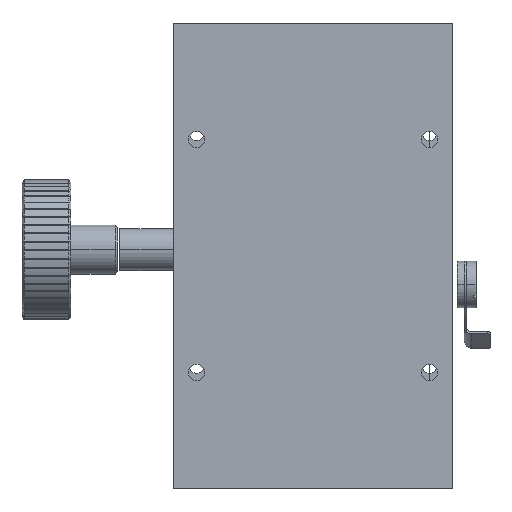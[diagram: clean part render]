
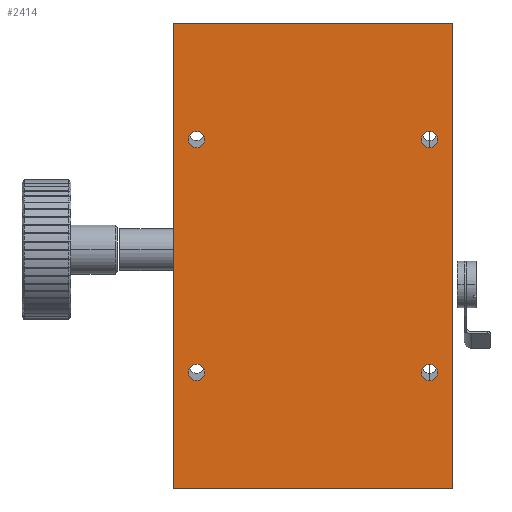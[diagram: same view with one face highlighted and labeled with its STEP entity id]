
A CAD part, front view. The second image highlights one B-rep face of the part: STEP entity #2414.
In plain terms, the highlighted planar face has unit normal (0, 1, 0).
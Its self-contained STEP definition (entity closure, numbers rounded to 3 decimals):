
#87 = AXIS2_PLACEMENT_3D ( 'NONE', #3652, #7102, #7893 ) ;
#147 = DIRECTION ( 'NONE',  ( 0., -1., 0. ) ) ;
#329 = DIRECTION ( 'NONE',  ( 0., 0., 1. ) ) ;
#338 = CARTESIAN_POINT ( 'NONE',  ( 14.928, -5.71, 123.25 ) ) ;
#376 = ORIENTED_EDGE ( 'NONE', *, *, #4442, .T. ) ;
#434 = CARTESIAN_POINT ( 'NONE',  ( 14.928, -5.71, 76.75 ) ) ;
#577 = CIRCLE ( 'NONE', #7955, 1.75 ) ;
#578 = DIRECTION ( 'NONE',  ( 0., 0., -1. ) ) ;
#720 = FACE_BOUND ( 'NONE', #7891, .T. ) ;
#744 = VERTEX_POINT ( 'NONE', #9751 ) ;
#756 = DIRECTION ( 'NONE',  ( 0., 0., 1. ) ) ;
#931 = EDGE_CURVE ( 'NONE', #9513, #1475, #9140, .T. ) ;
#996 = ORIENTED_EDGE ( 'NONE', *, *, #10965, .T. ) ;
#1200 = ORIENTED_EDGE ( 'NONE', *, *, #10166, .T. ) ;
#1261 = EDGE_LOOP ( 'NONE', ( #996, #8592 ) ) ;
#1394 = CIRCLE ( 'NONE', #2859, 1.75 ) ;
#1475 = VERTEX_POINT ( 'NONE', #6692 ) ;
#1521 = ORIENTED_EDGE ( 'NONE', *, *, #7282, .T. ) ;
#1678 = DIRECTION ( 'NONE',  ( 0., -1., 0. ) ) ;
#1748 = CARTESIAN_POINT ( 'NONE',  ( -35.072, -5.71, 125. ) ) ;
#1866 = DIRECTION ( 'NONE',  ( -1., 0., 0. ) ) ;
#1873 = LINE ( 'NONE', #10961, #6719 ) ;
#2262 = VERTEX_POINT ( 'NONE', #5573 ) ;
#2329 = CARTESIAN_POINT ( 'NONE',  ( -35.072, -5.71, 125. ) ) ;
#2414 = ADVANCED_FACE ( 'NONE', ( #4911, #720, #3174, #6636, #3690 ), #5364, .T. ) ;
#2464 = LINE ( 'NONE', #9459, #7163 ) ;
#2534 = CARTESIAN_POINT ( 'NONE',  ( 14.928, -5.71, 125. ) ) ;
#2787 = DIRECTION ( 'NONE',  ( 0., 1., 0. ) ) ;
#2859 = AXIS2_PLACEMENT_3D ( 'NONE', #2329, #8282, #9206 ) ;
#2883 = CARTESIAN_POINT ( 'NONE',  ( 19.928, -5.71, 50. ) ) ;
#2894 = VECTOR ( 'NONE', #9128, 1000. ) ;
#3077 = EDGE_LOOP ( 'NONE', ( #9155, #6945 ) ) ;
#3174 = FACE_BOUND ( 'NONE', #5495, .T. ) ;
#3358 = DIRECTION ( 'NONE',  ( 1., 0., 0. ) ) ;
#3559 = EDGE_CURVE ( 'NONE', #5673, #744, #5156, .T. ) ;
#3652 = CARTESIAN_POINT ( 'NONE',  ( -35.072, -5.71, 75. ) ) ;
#3690 = FACE_OUTER_BOUND ( 'NONE', #3998, .T. ) ;
#3737 = CARTESIAN_POINT ( 'NONE',  ( -35.072, -5.71, 75. ) ) ;
#3777 = VERTEX_POINT ( 'NONE', #2883 ) ;
#3853 = DIRECTION ( 'NONE',  ( 0., -1., 0. ) ) ;
#3998 = EDGE_LOOP ( 'NONE', ( #7917, #376, #1200, #1521 ) ) ;
#4040 = LINE ( 'NONE', #5828, #8485 ) ;
#4041 = CARTESIAN_POINT ( 'NONE',  ( 14.928, -5.71, 126.75 ) ) ;
#4098 = EDGE_CURVE ( 'NONE', #5744, #7628, #9755, .T. ) ;
#4442 = EDGE_CURVE ( 'NONE', #744, #5898, #2464, .T. ) ;
#4911 = FACE_BOUND ( 'NONE', #3077, .T. ) ;
#5086 = AXIS2_PLACEMENT_3D ( 'NONE', #8619, #10350, #10459 ) ;
#5156 = LINE ( 'NONE', #10851, #2894 ) ;
#5284 = AXIS2_PLACEMENT_3D ( 'NONE', #1748, #1678, #7691 ) ;
#5324 = CARTESIAN_POINT ( 'NONE',  ( -35.072, -5.71, 123.25 ) ) ;
#5364 = PLANE ( 'NONE',  #7299 ) ;
#5495 = EDGE_LOOP ( 'NONE', ( #6207, #8288 ) ) ;
#5573 = CARTESIAN_POINT ( 'NONE',  ( -35.072, -5.71, 126.75 ) ) ;
#5673 = VERTEX_POINT ( 'NONE', #8602 ) ;
#5744 = VERTEX_POINT ( 'NONE', #6005 ) ;
#5828 = CARTESIAN_POINT ( 'NONE',  ( -40.072, -5.71, 50. ) ) ;
#5898 = VERTEX_POINT ( 'NONE', #8237 ) ;
#5972 = CARTESIAN_POINT ( 'NONE',  ( 14.928, -5.71, 75. ) ) ;
#6005 = CARTESIAN_POINT ( 'NONE',  ( -35.072, -5.71, 73.25 ) ) ;
#6108 = EDGE_CURVE ( 'NONE', #10634, #2262, #7547, .T. ) ;
#6207 = ORIENTED_EDGE ( 'NONE', *, *, #8069, .T. ) ;
#6566 = DIRECTION ( 'NONE',  ( 0., -1., 0. ) ) ;
#6636 = FACE_BOUND ( 'NONE', #1261, .T. ) ;
#6692 = CARTESIAN_POINT ( 'NONE',  ( 14.928, -5.71, 73.25 ) ) ;
#6719 = VECTOR ( 'NONE', #578, 1000. ) ;
#6945 = ORIENTED_EDGE ( 'NONE', *, *, #9162, .T. ) ;
#7009 = CIRCLE ( 'NONE', #10026, 1.75 ) ;
#7102 = DIRECTION ( 'NONE',  ( 0., -1., 0. ) ) ;
#7163 = VECTOR ( 'NONE', #3358, 1000. ) ;
#7282 = EDGE_CURVE ( 'NONE', #3777, #5673, #4040, .T. ) ;
#7299 = AXIS2_PLACEMENT_3D ( 'NONE', #8943, #2787, #1866 ) ;
#7381 = ORIENTED_EDGE ( 'NONE', *, *, #7890, .T. ) ;
#7547 = CIRCLE ( 'NONE', #5284, 1.75 ) ;
#7628 = VERTEX_POINT ( 'NONE', #8535 ) ;
#7646 = EDGE_CURVE ( 'NONE', #10091, #9145, #9835, .T. ) ;
#7691 = DIRECTION ( 'NONE',  ( 0., 0., 1. ) ) ;
#7865 = DIRECTION ( 'NONE',  ( 0., 0., 1. ) ) ;
#7890 = EDGE_CURVE ( 'NONE', #7628, #5744, #577, .T. ) ;
#7891 = EDGE_LOOP ( 'NONE', ( #7381, #10941 ) ) ;
#7893 = DIRECTION ( 'NONE',  ( 0., 0., 1. ) ) ;
#7917 = ORIENTED_EDGE ( 'NONE', *, *, #3559, .T. ) ;
#7955 = AXIS2_PLACEMENT_3D ( 'NONE', #3737, #3853, #329 ) ;
#8069 = EDGE_CURVE ( 'NONE', #2262, #10634, #1394, .T. ) ;
#8079 = CIRCLE ( 'NONE', #11204, 1.75 ) ;
#8237 = CARTESIAN_POINT ( 'NONE',  ( 19.928, -5.71, 150. ) ) ;
#8282 = DIRECTION ( 'NONE',  ( 0., -1., 0. ) ) ;
#8288 = ORIENTED_EDGE ( 'NONE', *, *, #6108, .T. ) ;
#8355 = DIRECTION ( 'NONE',  ( -1., 0., 0. ) ) ;
#8485 = VECTOR ( 'NONE', #8355, 1000. ) ;
#8535 = CARTESIAN_POINT ( 'NONE',  ( -35.072, -5.71, 76.75 ) ) ;
#8592 = ORIENTED_EDGE ( 'NONE', *, *, #7646, .T. ) ;
#8602 = CARTESIAN_POINT ( 'NONE',  ( -40.072, -5.71, 50. ) ) ;
#8619 = CARTESIAN_POINT ( 'NONE',  ( 14.928, -5.71, 75. ) ) ;
#8943 = CARTESIAN_POINT ( 'NONE',  ( -40.072, -5.71, 150. ) ) ;
#9128 = DIRECTION ( 'NONE',  ( 0., 0., 1. ) ) ;
#9140 = CIRCLE ( 'NONE', #5086, 1.75 ) ;
#9145 = VERTEX_POINT ( 'NONE', #4041 ) ;
#9155 = ORIENTED_EDGE ( 'NONE', *, *, #931, .T. ) ;
#9162 = EDGE_CURVE ( 'NONE', #1475, #9513, #7009, .T. ) ;
#9206 = DIRECTION ( 'NONE',  ( 0., 0., 1. ) ) ;
#9459 = CARTESIAN_POINT ( 'NONE',  ( -40.072, -5.71, 150. ) ) ;
#9513 = VERTEX_POINT ( 'NONE', #434 ) ;
#9751 = CARTESIAN_POINT ( 'NONE',  ( -40.072, -5.71, 150. ) ) ;
#9755 = CIRCLE ( 'NONE', #87, 1.75 ) ;
#9835 = CIRCLE ( 'NONE', #10661, 1.75 ) ;
#10026 = AXIS2_PLACEMENT_3D ( 'NONE', #5972, #6566, #10904 ) ;
#10091 = VERTEX_POINT ( 'NONE', #338 ) ;
#10166 = EDGE_CURVE ( 'NONE', #5898, #3777, #1873, .T. ) ;
#10345 = DIRECTION ( 'NONE',  ( 0., -1., 0. ) ) ;
#10350 = DIRECTION ( 'NONE',  ( 0., -1., 0. ) ) ;
#10459 = DIRECTION ( 'NONE',  ( 0., 0., 1. ) ) ;
#10634 = VERTEX_POINT ( 'NONE', #5324 ) ;
#10661 = AXIS2_PLACEMENT_3D ( 'NONE', #2534, #10345, #756 ) ;
#10851 = CARTESIAN_POINT ( 'NONE',  ( -40.072, -5.71, 150. ) ) ;
#10904 = DIRECTION ( 'NONE',  ( 0., 0., 1. ) ) ;
#10941 = ORIENTED_EDGE ( 'NONE', *, *, #4098, .T. ) ;
#10961 = CARTESIAN_POINT ( 'NONE',  ( 19.928, -5.71, 150. ) ) ;
#10965 = EDGE_CURVE ( 'NONE', #9145, #10091, #8079, .T. ) ;
#11076 = CARTESIAN_POINT ( 'NONE',  ( 14.928, -5.71, 125. ) ) ;
#11204 = AXIS2_PLACEMENT_3D ( 'NONE', #11076, #147, #7865 ) ;
